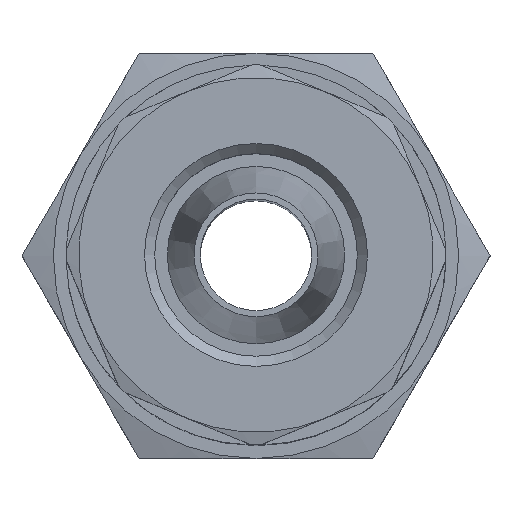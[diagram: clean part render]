
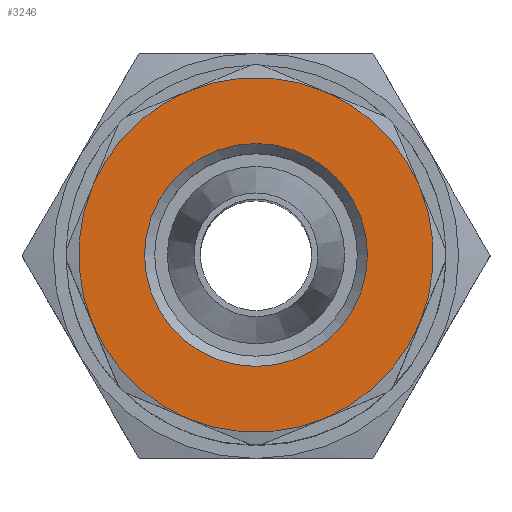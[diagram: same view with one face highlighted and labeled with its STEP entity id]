
A CAD part, top view. The second image highlights one B-rep face of the part: STEP entity #3246.
In plain terms, the highlighted planar face has unit normal (0, 0, 1) as drawn and (0, 1, 0) by its records, which use the part's own axes.
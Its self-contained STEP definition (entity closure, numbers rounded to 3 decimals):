
#920=PLANE('',#3064);
#966=ORIENTED_EDGE('',*,*,#1392,.T.);
#967=ORIENTED_EDGE('',*,*,#1393,.F.);
#968=ORIENTED_EDGE('',*,*,#1394,.T.);
#969=ORIENTED_EDGE('',*,*,#1395,.T.);
#970=ORIENTED_EDGE('',*,*,#1396,.T.);
#971=ORIENTED_EDGE('',*,*,#1397,.T.);
#972=ORIENTED_EDGE('',*,*,#1398,.T.);
#973=ORIENTED_EDGE('',*,*,#1399,.T.);
#974=ORIENTED_EDGE('',*,*,#1391,.T.);
#1233=CIRCLE('',#3063,2.2);
#1234=CIRCLE('',#3065,3.5);
#1235=CIRCLE('',#3066,3.5);
#1236=CIRCLE('',#3067,3.5);
#1237=CIRCLE('',#3068,3.5);
#1238=CIRCLE('',#3069,3.5);
#1239=CIRCLE('',#3070,3.5);
#1240=CIRCLE('',#3071,3.5);
#1241=CIRCLE('',#3072,3.5);
#1298=VERTEX_POINT('',#2758);
#1299=VERTEX_POINT('',#2761);
#1300=VERTEX_POINT('',#2762);
#1301=VERTEX_POINT('',#2764);
#1302=VERTEX_POINT('',#2766);
#1303=VERTEX_POINT('',#2768);
#1304=VERTEX_POINT('',#2770);
#1305=VERTEX_POINT('',#2772);
#1306=VERTEX_POINT('',#2774);
#1391=EDGE_CURVE('',#1298,#1298,#1233,.T.);
#1392=EDGE_CURVE('',#1299,#1300,#1234,.T.);
#1393=EDGE_CURVE('',#1301,#1300,#1235,.T.);
#1394=EDGE_CURVE('',#1301,#1302,#1236,.T.);
#1395=EDGE_CURVE('',#1302,#1303,#1237,.T.);
#1396=EDGE_CURVE('',#1303,#1304,#1238,.T.);
#1397=EDGE_CURVE('',#1304,#1305,#1239,.T.);
#1398=EDGE_CURVE('',#1305,#1306,#1240,.T.);
#1399=EDGE_CURVE('',#1306,#1299,#1241,.T.);
#1529=EDGE_LOOP('',(#966,#967,#968,#969,#970,#971,#972,#973));
#1530=EDGE_LOOP('',(#974));
#1633=FACE_BOUND('',#1529,.T.);
#1634=FACE_BOUND('',#1530,.T.);
#2364=DIRECTION('',(0.,-1.,0.));
#2365=DIRECTION('',(0.,0.,-2.2));
#2366=DIRECTION('',(0.,1.,0.));
#2367=DIRECTION('',(1.,0.,0.));
#2368=DIRECTION('',(0.,1.,0.));
#2369=DIRECTION('',(0.,0.,-3.5));
#2370=DIRECTION('',(0.,-1.,0.));
#2371=DIRECTION('',(0.,0.,3.5));
#2372=DIRECTION('',(0.,1.,0.));
#2373=DIRECTION('',(0.,0.,-3.5));
#2374=DIRECTION('',(0.,1.,0.));
#2375=DIRECTION('',(0.,0.,-3.5));
#2376=DIRECTION('',(0.,1.,0.));
#2377=DIRECTION('',(0.,0.,-3.5));
#2378=DIRECTION('',(0.,1.,0.));
#2379=DIRECTION('',(0.,0.,-3.5));
#2380=DIRECTION('',(0.,1.,0.));
#2381=DIRECTION('',(0.,0.,-3.5));
#2382=DIRECTION('',(0.,1.,0.));
#2383=DIRECTION('',(0.,0.,-3.5));
#2758=CARTESIAN_POINT('',(0.,9.,-2.2));
#2759=CARTESIAN_POINT('',(0.,9.,0.));
#2760=CARTESIAN_POINT('',(3.234,9.,1.339));
#2761=CARTESIAN_POINT('',(3.234,9.,1.339));
#2762=CARTESIAN_POINT('',(3.234,9.,-1.339));
#2763=CARTESIAN_POINT('',(0.,9.,0.));
#2764=CARTESIAN_POINT('',(1.339,9.,-3.234));
#2765=CARTESIAN_POINT('',(0.,9.,0.));
#2766=CARTESIAN_POINT('',(-1.339,9.,-3.234));
#2767=CARTESIAN_POINT('',(0.,9.,0.));
#2768=CARTESIAN_POINT('',(-3.234,9.,-1.339));
#2769=CARTESIAN_POINT('',(0.,9.,0.));
#2770=CARTESIAN_POINT('',(-3.234,9.,1.339));
#2771=CARTESIAN_POINT('',(0.,9.,0.));
#2772=CARTESIAN_POINT('',(-1.339,9.,3.234));
#2773=CARTESIAN_POINT('',(0.,9.,0.));
#2774=CARTESIAN_POINT('',(1.339,9.,3.234));
#2775=CARTESIAN_POINT('',(0.,9.,0.));
#2776=CARTESIAN_POINT('',(0.,9.,0.));
#3063=AXIS2_PLACEMENT_3D('',#2759,#2364,#2365);
#3064=AXIS2_PLACEMENT_3D('',#2760,#2366,#2367);
#3065=AXIS2_PLACEMENT_3D('',#2763,#2368,#2369);
#3066=AXIS2_PLACEMENT_3D('',#2765,#2370,#2371);
#3067=AXIS2_PLACEMENT_3D('',#2767,#2372,#2373);
#3068=AXIS2_PLACEMENT_3D('',#2769,#2374,#2375);
#3069=AXIS2_PLACEMENT_3D('',#2771,#2376,#2377);
#3070=AXIS2_PLACEMENT_3D('',#2773,#2378,#2379);
#3071=AXIS2_PLACEMENT_3D('',#2775,#2380,#2381);
#3072=AXIS2_PLACEMENT_3D('',#2776,#2382,#2383);
#3246=ADVANCED_FACE('',(#1633,#1634),#920,.T.);
